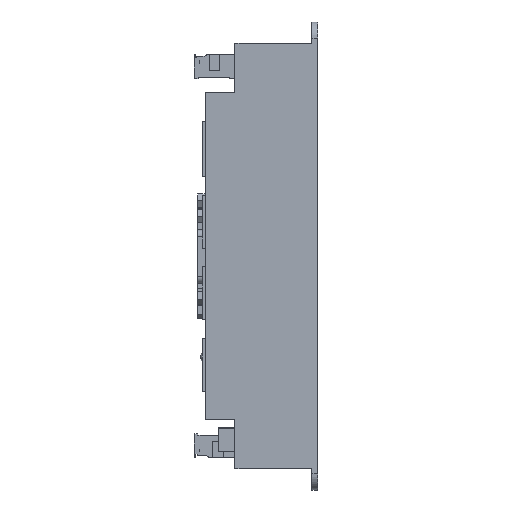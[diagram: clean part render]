
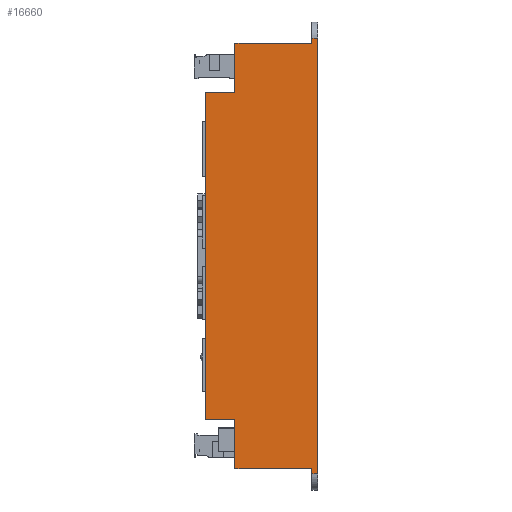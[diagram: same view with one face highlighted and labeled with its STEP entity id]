
A CAD part, left-side view. The second image highlights one B-rep face of the part: STEP entity #16660.
In plain terms, the highlighted planar face has unit normal (-1, 0, 0).
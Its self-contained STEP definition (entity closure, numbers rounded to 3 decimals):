
#1228 = CARTESIAN_POINT ( 'NONE',  ( -108., 1.8, -65.385 ) ) ;
#1490 = VECTOR ( 'NONE', #36488, 1000. ) ;
#1988 = VECTOR ( 'NONE', #17061, 1000. ) ;
#3016 = DIRECTION ( 'NONE',  ( 0., 0., 1. ) ) ;
#3093 = CARTESIAN_POINT ( 'NONE',  ( -108., 25.45, 65.385 ) ) ;
#3411 = VERTEX_POINT ( 'NONE', #39761 ) ;
#3677 = LINE ( 'NONE', #7140, #29954 ) ;
#4340 = LINE ( 'NONE', #18448, #36096 ) ;
#4495 = EDGE_CURVE ( 'NONE', #8114, #36716, #23906, .T. ) ;
#5391 = CARTESIAN_POINT ( 'NONE',  ( -108., 1.8, -72. ) ) ;
#6349 = ORIENTED_EDGE ( 'NONE', *, *, #35335, .F. ) ;
#6607 = VECTOR ( 'NONE', #35882, 1000. ) ;
#6999 = EDGE_CURVE ( 'NONE', #38236, #13617, #11153, .T. ) ;
#7140 = CARTESIAN_POINT ( 'NONE',  ( -108., 25.45, -65.385 ) ) ;
#7852 = ORIENTED_EDGE ( 'NONE', *, *, #13592, .F. ) ;
#8114 = VERTEX_POINT ( 'NONE', #18085 ) ;
#8395 = DIRECTION ( 'NONE',  ( 0., 0., 1. ) ) ;
#8645 = CARTESIAN_POINT ( 'NONE',  ( -108., 0., -67. ) ) ;
#9506 = EDGE_CURVE ( 'NONE', #38236, #30374, #39383, .T. ) ;
#10934 = CARTESIAN_POINT ( 'NONE',  ( -108., 1.8, -67. ) ) ;
#11018 = DIRECTION ( 'NONE',  ( 0., 1., 0. ) ) ;
#11095 = ORIENTED_EDGE ( 'NONE', *, *, #6999, .F. ) ;
#11153 = LINE ( 'NONE', #25246, #6607 ) ;
#11386 = VERTEX_POINT ( 'NONE', #24490 ) ;
#12614 = VECTOR ( 'NONE', #11018, 1000. ) ;
#12802 = LINE ( 'NONE', #5391, #36172 ) ;
#13592 = EDGE_CURVE ( 'NONE', #3411, #21377, #12802, .T. ) ;
#13617 = VERTEX_POINT ( 'NONE', #1228 ) ;
#14097 = DIRECTION ( 'NONE',  ( 0., 0., 1. ) ) ;
#14807 = DIRECTION ( 'NONE',  ( 0., 0., -1. ) ) ;
#15146 = EDGE_CURVE ( 'NONE', #8114, #45752, #38900, .T. ) ;
#15290 = EDGE_CURVE ( 'NONE', #30374, #11386, #20578, .T. ) ;
#16660 = ADVANCED_FACE ( 'NONE', ( #21947 ), #25204, .F. ) ;
#16854 = CARTESIAN_POINT ( 'NONE',  ( -108., 25.45, -65.385 ) ) ;
#17053 = CARTESIAN_POINT ( 'NONE',  ( -108., 1.8, -67. ) ) ;
#17061 = DIRECTION ( 'NONE',  ( 0., 0., 1. ) ) ;
#17559 = ORIENTED_EDGE ( 'NONE', *, *, #15146, .T. ) ;
#17955 = LINE ( 'NONE', #28580, #12614 ) ;
#18085 = CARTESIAN_POINT ( 'NONE',  ( -108., 25.45, 50.385 ) ) ;
#18448 = CARTESIAN_POINT ( 'NONE',  ( -108., 34.45, -65.385 ) ) ;
#18453 = CARTESIAN_POINT ( 'NONE',  ( -108., 25.45, -50.385 ) ) ;
#19124 = VECTOR ( 'NONE', #29404, 1000. ) ;
#20578 = LINE ( 'NONE', #34221, #37542 ) ;
#21377 = VERTEX_POINT ( 'NONE', #26062 ) ;
#21947 = FACE_OUTER_BOUND ( 'NONE', #35497, .T. ) ;
#22229 = CARTESIAN_POINT ( 'NONE',  ( -108., 25.45, 50.385 ) ) ;
#22615 = ORIENTED_EDGE ( 'NONE', *, *, #9506, .T. ) ;
#23613 = AXIS2_PLACEMENT_3D ( 'NONE', #24967, #28220, #14807 ) ;
#23906 = LINE ( 'NONE', #3093, #37782 ) ;
#23986 = CARTESIAN_POINT ( 'NONE',  ( -108., 34.45, -65.385 ) ) ;
#24394 = CARTESIAN_POINT ( 'NONE',  ( -108., 34.45, 50.385 ) ) ;
#24490 = CARTESIAN_POINT ( 'NONE',  ( -108., 0., 67. ) ) ;
#24967 = CARTESIAN_POINT ( 'NONE',  ( -108., 1.8, -72. ) ) ;
#25129 = LINE ( 'NONE', #28591, #32001 ) ;
#25169 = CARTESIAN_POINT ( 'NONE',  ( -108., 25.45, 65.385 ) ) ;
#25204 = PLANE ( 'NONE',  #23613 ) ;
#25246 = CARTESIAN_POINT ( 'NONE',  ( -108., 1.8, -72. ) ) ;
#26062 = CARTESIAN_POINT ( 'NONE',  ( -108., 1.8, 67. ) ) ;
#26623 = EDGE_CURVE ( 'NONE', #32843, #26771, #3677, .T. ) ;
#26771 = VERTEX_POINT ( 'NONE', #29778 ) ;
#28201 = EDGE_CURVE ( 'NONE', #32986, #45752, #30680, .T. ) ;
#28220 = DIRECTION ( 'NONE',  ( 1., 0., 0. ) ) ;
#28580 = CARTESIAN_POINT ( 'NONE',  ( -108., 1.8, 67. ) ) ;
#28591 = CARTESIAN_POINT ( 'NONE',  ( -108., 34.45, 65.385 ) ) ;
#29404 = DIRECTION ( 'NONE',  ( 0., -1., 0. ) ) ;
#29778 = CARTESIAN_POINT ( 'NONE',  ( -108., 25.45, -50.385 ) ) ;
#29954 = VECTOR ( 'NONE', #14097, 1000. ) ;
#30374 = VERTEX_POINT ( 'NONE', #8645 ) ;
#30680 = LINE ( 'NONE', #23986, #1988 ) ;
#30733 = ORIENTED_EDGE ( 'NONE', *, *, #4495, .F. ) ;
#31506 = DIRECTION ( 'NONE',  ( 0., 0., 1. ) ) ;
#32001 = VECTOR ( 'NONE', #45509, 1000. ) ;
#32571 = ORIENTED_EDGE ( 'NONE', *, *, #15290, .T. ) ;
#32773 = DIRECTION ( 'NONE',  ( 0., -1., 0. ) ) ;
#32843 = VERTEX_POINT ( 'NONE', #16854 ) ;
#32986 = VERTEX_POINT ( 'NONE', #33388 ) ;
#33065 = VECTOR ( 'NONE', #35430, 1000. ) ;
#33388 = CARTESIAN_POINT ( 'NONE',  ( -108., 34.45, -50.385 ) ) ;
#34193 = EDGE_CURVE ( 'NONE', #32843, #13617, #4340, .T. ) ;
#34221 = CARTESIAN_POINT ( 'NONE',  ( -108., 0., -72. ) ) ;
#35335 = EDGE_CURVE ( 'NONE', #26771, #32986, #35803, .T. ) ;
#35430 = DIRECTION ( 'NONE',  ( 0., 1., 0. ) ) ;
#35497 = EDGE_LOOP ( 'NONE', ( #43220, #6349, #45267, #38467, #11095, #22615, #32571, #36066, #7852, #40197, #30733, #17559 ) ) ;
#35803 = LINE ( 'NONE', #18453, #1490 ) ;
#35882 = DIRECTION ( 'NONE',  ( 0., 0., 1. ) ) ;
#36066 = ORIENTED_EDGE ( 'NONE', *, *, #42613, .T. ) ;
#36096 = VECTOR ( 'NONE', #32773, 1000. ) ;
#36172 = VECTOR ( 'NONE', #8395, 1000. ) ;
#36488 = DIRECTION ( 'NONE',  ( 0., 1., 0. ) ) ;
#36716 = VERTEX_POINT ( 'NONE', #25169 ) ;
#37542 = VECTOR ( 'NONE', #3016, 1000. ) ;
#37782 = VECTOR ( 'NONE', #31506, 1000. ) ;
#38236 = VERTEX_POINT ( 'NONE', #17053 ) ;
#38467 = ORIENTED_EDGE ( 'NONE', *, *, #34193, .T. ) ;
#38900 = LINE ( 'NONE', #22229, #33065 ) ;
#39383 = LINE ( 'NONE', #10934, #19124 ) ;
#39761 = CARTESIAN_POINT ( 'NONE',  ( -108., 1.8, 65.385 ) ) ;
#40197 = ORIENTED_EDGE ( 'NONE', *, *, #45338, .F. ) ;
#42613 = EDGE_CURVE ( 'NONE', #11386, #21377, #17955, .T. ) ;
#43220 = ORIENTED_EDGE ( 'NONE', *, *, #28201, .F. ) ;
#45267 = ORIENTED_EDGE ( 'NONE', *, *, #26623, .F. ) ;
#45338 = EDGE_CURVE ( 'NONE', #36716, #3411, #25129, .T. ) ;
#45509 = DIRECTION ( 'NONE',  ( 0., -1., 0. ) ) ;
#45752 = VERTEX_POINT ( 'NONE', #24394 ) ;
